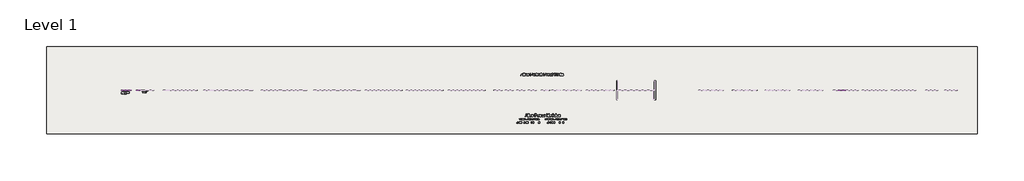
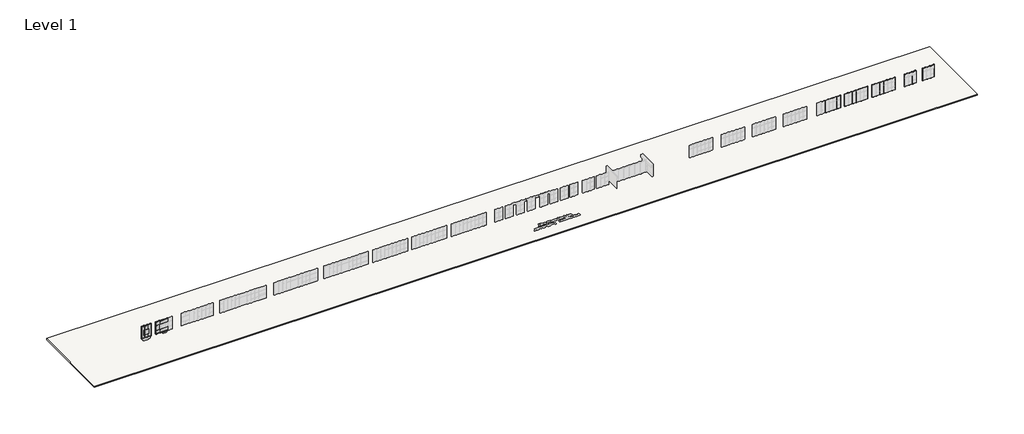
# One storey, part 4 of 22: 72 members, 44 proxies, 1 slab.
"""IFC4 building model written with IfcOpenShell, lengths in millimetres."""

from ifc_helpers import new_model, si_unit, frame, origin, place, context, project, spatial, polyline, outline, extrude, transform, mapped, element, save
from components import specialty_equipment_bbbfd60c, fascia_teknion_ceiling_and_base_fpb1_c4170f9c, fascia_teknion_ceiling_and_base_fpb1_a007a032, fascia_teknion_ceiling_and_base_fpb1_f118ea03, fascia_teknion_ceiling_and_base_fpb1_1e4a17ed, fascia_teknion_ceiling_and_base_fpb1_8c4cbf86, fascia_teknion_ceiling_and_base_fpb1_7b58b744, fascia_teknion_ceiling_and_base_fpb1_db7fbf47, frame_teknion_horizontal_rail_569d168c, frame_teknion_horizontal_rail_d62daecc, frame_teknion_horizontal_rail_0c6c6476, frame_teknion_horizontal_rail_791af6a0, full_eef0ab5c, full_8a41353e, full_3f1e97c4, level_i_259d5150, level_i_3af106d6, level_ii_eb892959, level_ii_fe5f90b5, level_iii_4beb9e8a, level_iii_939e849f, monolithic_level_i_9a1f2e57, monolithic_level_i_efd8ba40, monolithic_level_i_6c7e6ec5, panel_fascia_teknion_level_i_f9dcfb35, panel_fascia_teknion_level_i_738fe521, panel_fascia_teknion_level_iii_769783e0, panel_fascia_teknion_level_iii_81271ac9, rectangular_mullion_7808c36e, rectangular_mullion_a1951c69, rectangular_mullion_54c82f83, rectangular_mullion_553b35be, rectangular_mullion_d5ff06bb, rectangular_mullion_frame_teknion_vertical_post_1d992eec, rectangular_mullion_frame_teknion_vertical_post_bb975e52, rectangular_mullion_frame_teknion_vertical_post_526a61ed, rectangular_mullion_frame_teknion_vertical_post_05f5e206, rectangular_mullion_frame_teknion_vertical_post_5ea4eea9, rectangular_mullion_frame_teknion_vertical_post_1fa3a907

model = new_model("IFC4")

# Units and contexts
model_context = context("Model", 3, world=origin())
ifc_project = project(units=[si_unit("LENGTHUNIT", "METRE", prefix="MILLI")], contexts=[model_context])

# Site, building, storey
site = spatial("IfcSite", under=ifc_project)
building = spatial("IfcBuilding", under=site)
storey = spatial("IfcBuildingStorey", under=building, Name="Level 1", Elevation=0.0)

# Proxies
placement = place(None, origin())
specialty_equipment_shape = specialty_equipment_bbbfd60c(model_context)
element("IfcBuildingElementProxy", 1, Name="Markerboard-Teknion-FCGA-Arch_Complements-Backpainted_Glass-R2021 : Backpainted Glass Markerboard", ObjectType="Markerboard-Teknion-FCGA-Arch_Complements-Backpainted_Glass-R2021 : Backpainted Glass Markerboard", at=placement, inside=storey, context=model_context, shape_type="MappedRepresentation", body=[
    mapped(specialty_equipment_shape, transform((-106824.7695211, 1762.3142105, 750.8875), x_axis=(1.0, 0.0, 0.0), y_axis=(0.0, 1.0, 0.0), z_axis=(0.0, 0.0, 1.0))),
])
fascia_teknion_ceiling_and_base_fpb1_shape = fascia_teknion_ceiling_and_base_fpb1_c4170f9c(model_context)
element("IfcBuildingElementProxy", 2, Name="Fascia-Teknion-Ceiling_and_Base : FPB1", ObjectType="Fascia-Teknion-Ceiling_and_Base : FPB1", at=placement, inside=storey, context=model_context, shape_type="MappedRepresentation", body=[
    mapped(fascia_teknion_ceiling_and_base_fpb1_shape, transform((-103626.4805069, 1843.3402105, 15.875), x_axis=(-1.0, 0.0, 0.0), y_axis=(0.0, -1.0, 0.0), z_axis=(0.0, 0.0, 1.0))),
])
fascia_teknion_ceiling_and_base_fpb1_2_shape = fascia_teknion_ceiling_and_base_fpb1_a007a032(model_context)
element("IfcBuildingElementProxy", 3, Name="Fascia-Teknion-Ceiling_and_Base : FPB1", ObjectType="Fascia-Teknion-Ceiling_and_Base : FPB1", at=placement, inside=storey, context=model_context, shape_type="MappedRepresentation", body=[
    mapped(fascia_teknion_ceiling_and_base_fpb1_2_shape, transform((-103626.4805069, 1781.3642105, 15.875), x_axis=(-1.0, 0.0, 0.0), y_axis=(0.0, -1.0, 0.0), z_axis=(0.0, 0.0, 1.0))),
])
fascia_teknion_ceiling_and_base_fpb1_3_shape = fascia_teknion_ceiling_and_base_fpb1_f118ea03(model_context)
element("IfcBuildingElementProxy", 4, Name="Fascia-Teknion-Ceiling_and_Base : FPB1", ObjectType="Fascia-Teknion-Ceiling_and_Base : FPB1", at=placement, inside=storey, context=model_context, shape_type="MappedRepresentation", body=[
    mapped(fascia_teknion_ceiling_and_base_fpb1_3_shape, transform((-102160.2754287, 1862.357315, 15.875), x_axis=(-1.0, 0.0, 0.0), y_axis=(0.0, -1.0, 0.0), z_axis=(0.0, 0.0, 1.0))),
])
fascia_teknion_ceiling_and_base_fpb1_4_shape = fascia_teknion_ceiling_and_base_fpb1_1e4a17ed(model_context)
element("IfcBuildingElementProxy", 5, Name="Fascia-Teknion-Ceiling_and_Base : FPB1", ObjectType="Fascia-Teknion-Ceiling_and_Base : FPB1", at=placement, inside=storey, context=model_context, shape_type="MappedRepresentation", body=[
    mapped(fascia_teknion_ceiling_and_base_fpb1_4_shape, transform((-102160.2754287, 1762.344815, 15.875), x_axis=(-1.0, 0.0, 0.0), y_axis=(0.0, -1.0, 0.0), z_axis=(0.0, 0.0, 1.0))),
])
fascia_teknion_ceiling_and_base_fpb1_5_shape = fascia_teknion_ceiling_and_base_fpb1_8c4cbf86(model_context)
element("IfcBuildingElementProxy", 6, Name="Fascia-Teknion-Ceiling_and_Base : FPB1", ObjectType="Fascia-Teknion-Ceiling_and_Base : FPB1", at=placement, inside=storey, context=model_context, shape_type="MappedRepresentation", body=[
    mapped(fascia_teknion_ceiling_and_base_fpb1_5_shape, transform((-105568.087543, 1843.3402105, 15.875), x_axis=(1.0, 0.0, 0.0), y_axis=(0.0, 1.0, 0.0), z_axis=(0.0, 0.0, 1.0))),
])
fascia_teknion_ceiling_and_base_fpb1_6_shape = fascia_teknion_ceiling_and_base_fpb1_7b58b744(model_context)
element("IfcBuildingElementProxy", 7, Name="Fascia-Teknion-Ceiling_and_Base : FPB1", ObjectType="Fascia-Teknion-Ceiling_and_Base : FPB1", at=placement, inside=storey, context=model_context, shape_type="MappedRepresentation", body=[
    mapped(fascia_teknion_ceiling_and_base_fpb1_6_shape, transform((-107078.0976993, 1843.3402105, 15.875), x_axis=(1.0, 0.0, 0.0), y_axis=(0.0, 1.0, 0.0), z_axis=(0.0, 0.0, 1.0))),
])
fascia_teknion_ceiling_and_base_fpb1_7_shape = fascia_teknion_ceiling_and_base_fpb1_db7fbf47(model_context)
element("IfcBuildingElementProxy", 8, Name="Fascia-Teknion-Ceiling_and_Base : FPB1", ObjectType="Fascia-Teknion-Ceiling_and_Base : FPB1", at=placement, inside=storey, context=model_context, shape_type="MappedRepresentation", body=[
    mapped(fascia_teknion_ceiling_and_base_fpb1_7_shape, transform((-106323.0926212, 1843.3402105, 15.875), x_axis=(1.0, 0.0, 0.0), y_axis=(0.0, 1.0, 0.0), z_axis=(0.0, 0.0, 1.0))),
])
element("IfcBuildingElementProxy", 9, Name="Fascia-Teknion-Ceiling_and_Base : FPC", ObjectType="Fascia-Teknion-Ceiling_and_Base : FPC", at=placement, inside=storey, context=model_context, shape_type="MappedRepresentation", body=[
    mapped(fascia_teknion_ceiling_and_base_fpb1_shape, transform((-103626.4805069, 1843.3402105, 2900.045), x_axis=(-1.0, 0.0, 0.0), y_axis=(0.0, -1.0, 0.0), z_axis=(0.0, 0.0, 1.0))),
])
element("IfcBuildingElementProxy", 10, Name="Fascia-Teknion-Ceiling_and_Base : FPC", ObjectType="Fascia-Teknion-Ceiling_and_Base : FPC", at=placement, inside=storey, context=model_context, shape_type="MappedRepresentation", body=[
    mapped(fascia_teknion_ceiling_and_base_fpb1_2_shape, transform((-103626.4805069, 1781.3642105, 2950.845), x_axis=(-1.0, 0.0, 0.0), y_axis=(0.0, -1.0, 0.0), z_axis=(0.0, 0.0, 1.0))),
])
element("IfcBuildingElementProxy", 11, Name="Fascia-Teknion-Ceiling_and_Base : FPC", ObjectType="Fascia-Teknion-Ceiling_and_Base : FPC", at=placement, inside=storey, context=model_context, shape_type="MappedRepresentation", body=[
    mapped(fascia_teknion_ceiling_and_base_fpb1_4_shape, transform((-102160.2754287, 1762.344815, 2900.045), x_axis=(-1.0, 0.0, 0.0), y_axis=(0.0, -1.0, 0.0), z_axis=(0.0, 0.0, 1.0))),
])
element("IfcBuildingElementProxy", 12, Name="Fascia-Teknion-Ceiling_and_Base : FPC", ObjectType="Fascia-Teknion-Ceiling_and_Base : FPC", at=placement, inside=storey, context=model_context, shape_type="MappedRepresentation", body=[
    mapped(fascia_teknion_ceiling_and_base_fpb1_5_shape, transform((-105568.087543, 1843.3402105, 2900.045), x_axis=(1.0, 0.0, 0.0), y_axis=(0.0, 1.0, 0.0), z_axis=(0.0, 0.0, 1.0))),
])
element("IfcBuildingElementProxy", 13, Name="Fascia-Teknion-Ceiling_and_Base : FPC", ObjectType="Fascia-Teknion-Ceiling_and_Base : FPC", at=placement, inside=storey, context=model_context, shape_type="MappedRepresentation", body=[
    mapped(fascia_teknion_ceiling_and_base_fpb1_6_shape, transform((-107078.0976993, 1843.3402105, 2900.045), x_axis=(1.0, 0.0, 0.0), y_axis=(0.0, 1.0, 0.0), z_axis=(0.0, 0.0, 1.0))),
])
element("IfcBuildingElementProxy", 14, Name="Fascia-Teknion-Ceiling_and_Base : FPC", ObjectType="Fascia-Teknion-Ceiling_and_Base : FPC", at=placement, inside=storey, context=model_context, shape_type="MappedRepresentation", body=[
    mapped(fascia_teknion_ceiling_and_base_fpb1_7_shape, transform((-106323.0926212, 1843.3402105, 2900.045), x_axis=(1.0, 0.0, 0.0), y_axis=(0.0, 1.0, 0.0), z_axis=(0.0, 0.0, 1.0))),
])
frame_teknion_horizontal_rail_shape = frame_teknion_horizontal_rail_569d168c(model_context)
element("IfcBuildingElementProxy", 15, Name="Frame-Teknion-Horizontal_Rail : FPKK", ObjectType="Frame-Teknion-Horizontal_Rail : FPKK", at=placement, inside=storey, context=model_context, shape_type="MappedRepresentation", body=[
    mapped(frame_teknion_horizontal_rail_shape, transform((-103626.4805069, 1812.3522105, 151.257), x_axis=(-1.0, 0.0, 0.0), y_axis=(0.0, -1.0, 0.0), z_axis=(0.0, 0.0, 1.0))),
])
element("IfcBuildingElementProxy", 16, Name="Frame-Teknion-Horizontal_Rail : FPKK", ObjectType="Frame-Teknion-Horizontal_Rail : FPKK", at=placement, inside=storey, context=model_context, shape_type="MappedRepresentation", body=[
    mapped(frame_teknion_horizontal_rail_shape, transform((-103626.4805069, 1812.3522105, 2898.3305), x_axis=(-1.0, 0.0, 0.0), y_axis=(0.0, -1.0, 0.0), z_axis=(0.0, 0.0, 1.0))),
])
element("IfcBuildingElementProxy", 17, Name="Frame-Teknion-Horizontal_Rail : FPKK", ObjectType="Frame-Teknion-Horizontal_Rail : FPKK", at=placement, inside=storey, context=model_context, shape_type="MappedRepresentation", body=[
    mapped(frame_teknion_horizontal_rail_shape, transform((-103626.4805069, 1812.3522105, 917.575), x_axis=(-1.0, 0.0, 0.0), y_axis=(0.0, -1.0, 0.0), z_axis=(0.0, 0.0, 1.0))),
])
element("IfcBuildingElementProxy", 18, Name="Frame-Teknion-Horizontal_Rail : FPKK", ObjectType="Frame-Teknion-Horizontal_Rail : FPKK", at=placement, inside=storey, context=model_context, shape_type="MappedRepresentation", body=[
    mapped(frame_teknion_horizontal_rail_shape, transform((-103626.4805069, 1812.3522105, 2136.775), x_axis=(-1.0, 0.0, 0.0), y_axis=(0.0, -1.0, 0.0), z_axis=(0.0, 0.0, 1.0))),
])
element("IfcBuildingElementProxy", 19, Name="Frame-Teknion-Horizontal_Rail : FPKK", ObjectType="Frame-Teknion-Horizontal_Rail : FPKK", at=placement, inside=storey, context=model_context, shape_type="MappedRepresentation", body=[
    mapped(frame_teknion_horizontal_rail_shape, transform((-103626.4805069, 1812.3522105, 97.155), x_axis=(-1.0, 0.0, 0.0), y_axis=(0.0, -1.0, 0.0), z_axis=(0.0, 0.0, 1.0))),
])
element("IfcBuildingElementProxy", 20, Name="Frame-Teknion-Horizontal_Rail : FPKK", ObjectType="Frame-Teknion-Horizontal_Rail : FPKK", at=placement, inside=storey, context=model_context, shape_type="MappedRepresentation", body=[
    mapped(frame_teknion_horizontal_rail_shape, transform((-103626.4805069, 1812.3522105, 2949.1305), x_axis=(-1.0, 0.0, 0.0), y_axis=(0.0, -1.0, 0.0), z_axis=(0.0, 0.0, 1.0))),
])
frame_teknion_horizontal_rail_2_shape = frame_teknion_horizontal_rail_d62daecc(model_context)
element("IfcBuildingElementProxy", 21, Name="Frame-Teknion-Horizontal_Rail : FPKK", ObjectType="Frame-Teknion-Horizontal_Rail : FPKK", at=placement, inside=storey, context=model_context, shape_type="MappedRepresentation", body=[
    mapped(frame_teknion_horizontal_rail_2_shape, transform((-102160.2754287, 1812.351065, 917.575), x_axis=(-1.0, 0.0, 0.0), y_axis=(0.0, -1.0, 0.0), z_axis=(0.0, 0.0, 1.0))),
])
element("IfcBuildingElementProxy", 22, Name="Frame-Teknion-Horizontal_Rail : FPKK", ObjectType="Frame-Teknion-Horizontal_Rail : FPKK", at=placement, inside=storey, context=model_context, shape_type="MappedRepresentation", body=[
    mapped(frame_teknion_horizontal_rail_2_shape, transform((-102160.2754287, 1812.351065, 2136.775), x_axis=(-1.0, 0.0, 0.0), y_axis=(0.0, -1.0, 0.0), z_axis=(0.0, 0.0, 1.0))),
])
frame_teknion_horizontal_rail_3_shape = frame_teknion_horizontal_rail_0c6c6476(model_context)
element("IfcBuildingElementProxy", 23, Name="Frame-Teknion-Horizontal_Rail : FPKK", ObjectType="Frame-Teknion-Horizontal_Rail : FPKK", at=placement, inside=storey, context=model_context, shape_type="MappedRepresentation", body=[
    mapped(frame_teknion_horizontal_rail_3_shape, transform((-105568.087543, 1812.3522105, 2898.3305), x_axis=(1.0, 0.0, 0.0), y_axis=(0.0, 1.0, 0.0), z_axis=(0.0, 0.0, 1.0))),
])
element("IfcBuildingElementProxy", 24, Name="Frame-Teknion-Horizontal_Rail : FPKK", ObjectType="Frame-Teknion-Horizontal_Rail : FPKK", at=placement, inside=storey, context=model_context, shape_type="MappedRepresentation", body=[
    mapped(frame_teknion_horizontal_rail_3_shape, transform((-105568.087543, 1812.3522105, 151.257), x_axis=(1.0, 0.0, 0.0), y_axis=(0.0, 1.0, 0.0), z_axis=(0.0, 0.0, 1.0))),
])
element("IfcBuildingElementProxy", 25, Name="Frame-Teknion-Horizontal_Rail : FPKK", ObjectType="Frame-Teknion-Horizontal_Rail : FPKK", at=placement, inside=storey, context=model_context, shape_type="MappedRepresentation", body=[
    mapped(frame_teknion_horizontal_rail_3_shape, transform((-107078.0976993, 1812.3522105, 151.257), x_axis=(1.0, 0.0, 0.0), y_axis=(0.0, 1.0, 0.0), z_axis=(0.0, 0.0, 1.0))),
])
element("IfcBuildingElementProxy", 26, Name="Frame-Teknion-Horizontal_Rail : FPKK", ObjectType="Frame-Teknion-Horizontal_Rail : FPKK", at=placement, inside=storey, context=model_context, shape_type="MappedRepresentation", body=[
    mapped(frame_teknion_horizontal_rail_3_shape, transform((-107078.0976993, 1812.3522105, 2898.3305), x_axis=(1.0, 0.0, 0.0), y_axis=(0.0, 1.0, 0.0), z_axis=(0.0, 0.0, 1.0))),
])
frame_teknion_horizontal_rail_4_shape = frame_teknion_horizontal_rail_791af6a0(model_context)
element("IfcBuildingElementProxy", 27, Name="Frame-Teknion-Horizontal_Rail : FPKK", ObjectType="Frame-Teknion-Horizontal_Rail : FPKK", at=placement, inside=storey, context=model_context, shape_type="MappedRepresentation", body=[
    mapped(frame_teknion_horizontal_rail_4_shape, transform((-106323.0926212, 1812.3522105, 2898.3305), x_axis=(1.0, 0.0, 0.0), y_axis=(0.0, 1.0, 0.0), z_axis=(0.0, 0.0, 1.0))),
])
element("IfcBuildingElementProxy", 28, Name="Frame-Teknion-Horizontal_Rail : FPKK", ObjectType="Frame-Teknion-Horizontal_Rail : FPKK", at=placement, inside=storey, context=model_context, shape_type="MappedRepresentation", body=[
    mapped(frame_teknion_horizontal_rail_4_shape, transform((-106323.0926212, 1812.3522105, 151.257), x_axis=(1.0, 0.0, 0.0), y_axis=(0.0, 1.0, 0.0), z_axis=(0.0, 0.0, 1.0))),
])
full_shape = full_eef0ab5c(model_context)
element("IfcBuildingElementProxy", 29, Name="Panel-Fascia-Teknion-Altos-Standard : Full", ObjectType="Panel-Fascia-Teknion-Altos-Standard : Full", at=placement, inside=storey, context=model_context, shape_type="MappedRepresentation", body=[
    mapped(full_shape, transform((-105568.087543, 1852.8652105, 151.257), x_axis=(1.0, 0.0, 0.0), y_axis=(0.0, 1.0, 0.0), z_axis=(0.0, 0.0, 1.0))),
])
full_2_shape = full_8a41353e(model_context)
element("IfcBuildingElementProxy", 30, Name="Panel-Fascia-Teknion-Altos-Standard : Full", ObjectType="Panel-Fascia-Teknion-Altos-Standard : Full", at=placement, inside=storey, context=model_context, shape_type="MappedRepresentation", body=[
    mapped(full_2_shape, transform((-107078.0976993, 1852.8652105, 151.257), x_axis=(1.0, 0.0, 0.0), y_axis=(0.0, 1.0, 0.0), z_axis=(0.0, 0.0, 1.0))),
])
full_3_shape = full_3f1e97c4(model_context)
element("IfcBuildingElementProxy", 31, Name="Panel-Fascia-Teknion-Altos-Standard : Full", ObjectType="Panel-Fascia-Teknion-Altos-Standard : Full", at=placement, inside=storey, context=model_context, shape_type="MappedRepresentation", body=[
    mapped(full_3_shape, transform((-106323.0926212, 1852.8652105, 151.257), x_axis=(1.0, 0.0, 0.0), y_axis=(0.0, 1.0, 0.0), z_axis=(0.0, 0.0, 1.0))),
])
level_i_shape = level_i_259d5150(model_context)
element("IfcBuildingElementProxy", 32, Name="Panel-Fascia-Teknion-Altos-Standard : Level I", ObjectType="Panel-Fascia-Teknion-Altos-Standard : Level I", at=placement, inside=storey, context=model_context, shape_type="MappedRepresentation", body=[
    mapped(level_i_shape, transform((-103626.4805069, 1852.8652105, 151.257), x_axis=(-1.0, 0.0, 0.0), y_axis=(0.0, -1.0, 0.0), z_axis=(0.0, 0.0, 1.0))),
])
level_i_2_shape = level_i_3af106d6(model_context)
element("IfcBuildingElementProxy", 33, Name="Panel-Fascia-Teknion-Altos-Standard : Level I", ObjectType="Panel-Fascia-Teknion-Altos-Standard : Level I", at=placement, inside=storey, context=model_context, shape_type="MappedRepresentation", body=[
    mapped(level_i_2_shape, transform((-103626.4805069, 1771.8392105, 100.457), x_axis=(-1.0, 0.0, 0.0), y_axis=(0.0, -1.0, 0.0), z_axis=(0.0, 0.0, 1.0))),
])
level_ii_shape = level_ii_eb892959(model_context)
element("IfcBuildingElementProxy", 34, Name="Panel-Fascia-Teknion-Altos-Standard : Level II", ObjectType="Panel-Fascia-Teknion-Altos-Standard : Level II", at=placement, inside=storey, context=model_context, shape_type="MappedRepresentation", body=[
    mapped(level_ii_shape, transform((-103626.4805069, 1852.8652105, 917.575), x_axis=(-1.0, 0.0, 0.0), y_axis=(0.0, -1.0, 0.0), z_axis=(0.0, 0.0, 1.0))),
])
level_ii_2_shape = level_ii_fe5f90b5(model_context)
element("IfcBuildingElementProxy", 35, Name="Panel-Fascia-Teknion-Altos-Standard : Level II", ObjectType="Panel-Fascia-Teknion-Altos-Standard : Level II", at=placement, inside=storey, context=model_context, shape_type="MappedRepresentation", body=[
    mapped(level_ii_2_shape, transform((-103626.4805069, 1771.8392105, 917.575), x_axis=(-1.0, 0.0, 0.0), y_axis=(0.0, -1.0, 0.0), z_axis=(0.0, 0.0, 1.0))),
])
level_iii_shape = level_iii_4beb9e8a(model_context)
element("IfcBuildingElementProxy", 36, Name="Panel-Fascia-Teknion-Altos-Standard : Level III", ObjectType="Panel-Fascia-Teknion-Altos-Standard : Level III", at=placement, inside=storey, context=model_context, shape_type="MappedRepresentation", body=[
    mapped(level_iii_shape, transform((-103626.4805069, 1771.8392105, 2136.775), x_axis=(-1.0, 0.0, 0.0), y_axis=(0.0, -1.0, 0.0), z_axis=(0.0, 0.0, 1.0))),
])
level_iii_2_shape = level_iii_939e849f(model_context)
element("IfcBuildingElementProxy", 37, Name="Panel-Fascia-Teknion-Altos-Standard : Level III", ObjectType="Panel-Fascia-Teknion-Altos-Standard : Level III", at=placement, inside=storey, context=model_context, shape_type="MappedRepresentation", body=[
    mapped(level_iii_2_shape, transform((-103626.4805069, 1852.8652105, 2136.775), x_axis=(-1.0, 0.0, 0.0), y_axis=(0.0, -1.0, 0.0), z_axis=(0.0, 0.0, 1.0))),
])
monolithic_level_i_shape = monolithic_level_i_9a1f2e57(model_context)
element("IfcBuildingElementProxy", 38, Name="Panel-Fascia-Teknion-Altos-Standard : Monolithic Level I", ObjectType="Panel-Fascia-Teknion-Altos-Standard : Monolithic Level I", at=placement, inside=storey, context=model_context, shape_type="MappedRepresentation", body=[
    mapped(monolithic_level_i_shape, transform((-105568.087543, 1771.8392105, 12.7), x_axis=(1.0, 0.0, 0.0), y_axis=(0.0, 1.0, 0.0), z_axis=(0.0, 0.0, 1.0))),
])
monolithic_level_i_2_shape = monolithic_level_i_efd8ba40(model_context)
element("IfcBuildingElementProxy", 39, Name="Panel-Fascia-Teknion-Altos-Standard : Monolithic Level I", ObjectType="Panel-Fascia-Teknion-Altos-Standard : Monolithic Level I", at=placement, inside=storey, context=model_context, shape_type="MappedRepresentation", body=[
    mapped(monolithic_level_i_2_shape, transform((-107078.0976993, 1771.8392105, 12.7), x_axis=(1.0, 0.0, 0.0), y_axis=(0.0, 1.0, 0.0), z_axis=(0.0, 0.0, 1.0))),
])
monolithic_level_i_3_shape = monolithic_level_i_6c7e6ec5(model_context)
element("IfcBuildingElementProxy", 40, Name="Panel-Fascia-Teknion-Altos-Standard : Monolithic Level I", ObjectType="Panel-Fascia-Teknion-Altos-Standard : Monolithic Level I", at=placement, inside=storey, context=model_context, shape_type="MappedRepresentation", body=[
    mapped(monolithic_level_i_3_shape, transform((-106323.0926212, 1771.8392105, 12.7), x_axis=(1.0, 0.0, 0.0), y_axis=(0.0, 1.0, 0.0), z_axis=(0.0, 0.0, 1.0))),
])
panel_fascia_teknion_level_i_shape = panel_fascia_teknion_level_i_f9dcfb35(model_context)
element("IfcBuildingElementProxy", 41, Name="Panel-Fascia-Teknion : Level I", ObjectType="Panel-Fascia-Teknion : Level I", at=placement, inside=storey, context=model_context, shape_type="MappedRepresentation", body=[
    mapped(panel_fascia_teknion_level_i_shape, transform((-102160.2754287, 1852.832315, 151.257), x_axis=(-1.0, 0.0, 0.0), y_axis=(0.0, -1.0, 0.0), z_axis=(0.0, 0.0, 1.0))),
])
panel_fascia_teknion_level_i_2_shape = panel_fascia_teknion_level_i_738fe521(model_context)
element("IfcBuildingElementProxy", 42, Name="Panel-Fascia-Teknion : Level I", ObjectType="Panel-Fascia-Teknion : Level I", at=placement, inside=storey, context=model_context, shape_type="MappedRepresentation", body=[
    mapped(panel_fascia_teknion_level_i_2_shape, transform((-102160.2754287, 1771.869815, 151.257), x_axis=(-1.0, 0.0, 0.0), y_axis=(0.0, -1.0, 0.0), z_axis=(0.0, 0.0, 1.0))),
])
panel_fascia_teknion_level_iii_shape = panel_fascia_teknion_level_iii_769783e0(model_context)
element("IfcBuildingElementProxy", 43, Name="Panel-Fascia-Teknion : Level III", ObjectType="Panel-Fascia-Teknion : Level III", at=placement, inside=storey, context=model_context, shape_type="MappedRepresentation", body=[
    mapped(panel_fascia_teknion_level_iii_shape, transform((-102160.2754287, 1852.832315, 2136.775), x_axis=(-1.0, 0.0, 0.0), y_axis=(0.0, -1.0, 0.0), z_axis=(0.0, 0.0, 1.0))),
])
panel_fascia_teknion_level_iii_2_shape = panel_fascia_teknion_level_iii_81271ac9(model_context)
element("IfcBuildingElementProxy", 44, Name="Panel-Fascia-Teknion : Level III", ObjectType="Panel-Fascia-Teknion : Level III", at=placement, inside=storey, context=model_context, shape_type="MappedRepresentation", body=[
    mapped(panel_fascia_teknion_level_iii_2_shape, transform((-102160.2754287, 1771.869815, 2136.775), x_axis=(-1.0, 0.0, 0.0), y_axis=(0.0, -1.0, 0.0), z_axis=(0.0, 0.0, 1.0))),
])

# Members
rectangular_mullion_shape = rectangular_mullion_7808c36e(model_context)
element("IfcMember", 45, ObjectType="Rectangular Mullion : Frame-Teknion-OptosLP-Ceiling_Top_Spacer", at=placement, inside=storey, context=model_context, shape_type="MappedRepresentation", body=[
    mapped(rectangular_mullion_shape, transform((74753.5073788, 1812.3522105, 3048.0), x_axis=(0.0, 0.0, 1.0), y_axis=(0.0, -1.0, 0.0), z_axis=(1.0, 0.0, 0.0))),
])
element("IfcMember", 46, ObjectType="Rectangular Mullion : Frame-Teknion-OptosLP-Ceiling_Top_Spacer", at=placement, inside=storey, context=model_context, shape_type="MappedRepresentation", body=[
    mapped(rectangular_mullion_shape, transform((76277.5073788, 1812.3522105, 3048.0), x_axis=(0.0, 0.0, 1.0), y_axis=(0.0, 1.0, 0.0), z_axis=(-1.0, 0.0, 0.0))),
])
rectangular_mullion_2_shape = rectangular_mullion_a1951c69(model_context)
element("IfcMember", 47, ObjectType="Rectangular Mullion : Frame-Teknion-Altos-Base_Channel", at=placement, inside=storey, context=model_context, shape_type="MappedRepresentation", body=[
    mapped(rectangular_mullion_2_shape, transform((72010.3073788, 1812.3522105, 0.0), x_axis=(0.0, 0.0, -1.0), y_axis=(0.0, -1.0, 0.0), z_axis=(-1.0, 0.0, 0.0))),
])
element("IfcMember", 48, ObjectType="Rectangular Mullion : Frame-Teknion-Altos-Base_Channel", at=placement, inside=storey, context=model_context, shape_type="MappedRepresentation", body=[
    mapped(rectangular_mullion_2_shape, transform((79020.7073788, 1812.3522105, 0.0), x_axis=(0.0, 0.0, -1.0), y_axis=(0.0, 1.0, 0.0), z_axis=(1.0, 0.0, 0.0))),
])
element("IfcMember", 49, ObjectType="Rectangular Mullion : Frame-Teknion-OptosLP-Ceiling_Top_Spacer", at=placement, inside=storey, context=model_context, shape_type="MappedRepresentation", body=[
    mapped(rectangular_mullion_shape, transform((72924.7073788, 1812.3522105, 3048.0), x_axis=(0.0, 0.0, 1.0), y_axis=(0.0, -1.0, 0.0), z_axis=(1.0, 0.0, 0.0))),
])
element("IfcMember", 50, ObjectType="Rectangular Mullion : Frame-Teknion-OptosLP-Ceiling_Top_Spacer", at=placement, inside=storey, context=model_context, shape_type="MappedRepresentation", body=[
    mapped(rectangular_mullion_shape, transform((78106.3073788, 1812.3522105, 3048.0), x_axis=(0.0, 0.0, 1.0), y_axis=(0.0, 1.0, 0.0), z_axis=(-1.0, 0.0, 0.0))),
])
element("IfcMember", 51, ObjectType="Rectangular Mullion : Frame-Teknion-Altos-Base_Channel", at=placement, inside=storey, context=model_context, shape_type="MappedRepresentation", body=[
    mapped(rectangular_mullion_2_shape, transform((72924.7073788, 1812.3522105, 0.0), x_axis=(0.0, 0.0, -1.0), y_axis=(0.0, -1.0, 0.0), z_axis=(-1.0, 0.0, 0.0))),
])
element("IfcMember", 52, ObjectType="Rectangular Mullion : Frame-Teknion-Altos-Base_Channel", at=placement, inside=storey, context=model_context, shape_type="MappedRepresentation", body=[
    mapped(rectangular_mullion_2_shape, transform((78106.3073788, 1812.3522105, 0.0), x_axis=(0.0, 0.0, -1.0), y_axis=(0.0, 1.0, 0.0), z_axis=(1.0, 0.0, 0.0))),
])
element("IfcMember", 53, ObjectType="Rectangular Mullion : Frame-Teknion-OptosLP-Ceiling_Top_Spacer", at=placement, inside=storey, context=model_context, shape_type="MappedRepresentation", body=[
    mapped(rectangular_mullion_shape, transform((73839.1073788, 1812.3522105, 3048.0), x_axis=(0.0, 0.0, 1.0), y_axis=(0.0, -1.0, 0.0), z_axis=(1.0, 0.0, 0.0))),
])
element("IfcMember", 54, ObjectType="Rectangular Mullion : Frame-Teknion-OptosLP-Ceiling_Top_Spacer", at=placement, inside=storey, context=model_context, shape_type="MappedRepresentation", body=[
    mapped(rectangular_mullion_shape, transform((77191.9073788, 1812.3522105, 3048.0), x_axis=(0.0, 0.0, 1.0), y_axis=(0.0, 1.0, 0.0), z_axis=(-1.0, 0.0, 0.0))),
])
element("IfcMember", 55, ObjectType="Rectangular Mullion : Frame-Teknion-Altos-Base_Channel", at=placement, inside=storey, context=model_context, shape_type="MappedRepresentation", body=[
    mapped(rectangular_mullion_2_shape, transform((73839.1073788, 1812.3522105, 0.0), x_axis=(0.0, 0.0, -1.0), y_axis=(0.0, -1.0, 0.0), z_axis=(-1.0, 0.0, 0.0))),
])
element("IfcMember", 56, ObjectType="Rectangular Mullion : Frame-Teknion-Altos-Base_Channel", at=placement, inside=storey, context=model_context, shape_type="MappedRepresentation", body=[
    mapped(rectangular_mullion_2_shape, transform((77191.9073788, 1812.3522105, 0.0), x_axis=(0.0, 0.0, -1.0), y_axis=(0.0, 1.0, 0.0), z_axis=(1.0, 0.0, 0.0))),
])
rectangular_mullion_3_shape = rectangular_mullion_54c82f83(model_context)
element("IfcMember", 57, ObjectType="Rectangular Mullion : Frame-Teknion-Altos-Ceiling_Channel", at=placement, inside=storey, context=model_context, shape_type="MappedRepresentation", body=[
    mapped(rectangular_mullion_3_shape, transform((56986.2425116, 1812.3522105, 3048.0), x_axis=(0.0, 0.0, 1.0), y_axis=(0.0, -1.0, 0.0), z_axis=(1.0, 0.0, 0.0))),
])
element("IfcMember", 58, ObjectType="Rectangular Mullion : Frame-Teknion-Altos-Ceiling_Channel", at=placement, inside=storey, context=model_context, shape_type="MappedRepresentation", body=[
    mapped(rectangular_mullion_3_shape, transform((69838.0248876, 1812.3522105, 3048.0), x_axis=(0.0, 0.0, 1.0), y_axis=(0.0, -1.0, 0.0), z_axis=(1.0, 0.0, 0.0))),
])
element("IfcMember", 59, ObjectType="Rectangular Mullion : Frame-Teknion-Altos-Ceiling_Channel", at=placement, inside=storey, context=model_context, shape_type="MappedRepresentation", body=[
    mapped(rectangular_mullion_3_shape, transform((65280.0147314, 1812.3522105, 3048.0), x_axis=(0.0, 0.0, 1.0), y_axis=(0.0, -1.0, 0.0), z_axis=(1.0, 0.0, 0.0))),
])
element("IfcMember", 60, ObjectType="Rectangular Mullion : Frame-Teknion-Altos-Ceiling_Channel", at=placement, inside=storey, context=model_context, shape_type="MappedRepresentation", body=[
    mapped(rectangular_mullion_3_shape, transform((63356.2895288, 1812.3522105, 3048.0), x_axis=(0.0, 0.0, 1.0), y_axis=(0.0, -1.0, 0.0), z_axis=(1.0, 0.0, 0.0))),
])
element("IfcMember", 61, ObjectType="Rectangular Mullion : Frame-Teknion-Altos-Ceiling_Channel", at=placement, inside=storey, context=model_context, shape_type="MappedRepresentation", body=[
    mapped(rectangular_mullion_3_shape, transform((58798.2793725, 1812.3522105, 3048.0), x_axis=(0.0, 0.0, 1.0), y_axis=(0.0, -1.0, 0.0), z_axis=(1.0, 0.0, 0.0))),
])
rectangular_mullion_4_shape = rectangular_mullion_553b35be(model_context)
element("IfcMember", 62, ObjectType="Rectangular Mullion : Frame-Teknion-Altos-Base_Channel", at=placement, inside=storey, context=model_context, shape_type="MappedRepresentation", body=[
    mapped(rectangular_mullion_4_shape, transform((56113.8120429, 1812.3522105, 0.0), x_axis=(0.0, 0.0, -1.0), y_axis=(0.0, -1.0, 0.0), z_axis=(-1.0, 0.0, 0.0))),
])
element("IfcMember", 63, ObjectType="Rectangular Mullion : Frame-Teknion-Altos-Base_Channel", at=placement, inside=storey, context=model_context, shape_type="MappedRepresentation", body=[
    mapped(rectangular_mullion_4_shape, transform((64407.5842626, 1812.3522105, 0.0), x_axis=(0.0, 0.0, -1.0), y_axis=(0.0, -1.0, 0.0), z_axis=(-1.0, 0.0, 0.0))),
])
element("IfcMember", 64, ObjectType="Rectangular Mullion : Frame-Teknion-Altos-Base_Channel", at=placement, inside=storey, context=model_context, shape_type="MappedRepresentation", body=[
    mapped(rectangular_mullion_4_shape, transform((68965.5944189, 1812.3522105, 0.0), x_axis=(0.0, 0.0, -1.0), y_axis=(0.0, -1.0, 0.0), z_axis=(-1.0, 0.0, 0.0))),
])
element("IfcMember", 65, ObjectType="Rectangular Mullion : Frame-Teknion-Altos-Base_Channel", at=placement, inside=storey, context=model_context, shape_type="MappedRepresentation", body=[
    mapped(rectangular_mullion_4_shape, transform((57925.8489038, 1812.3522105, 0.0), x_axis=(0.0, 0.0, -1.0), y_axis=(0.0, -1.0, 0.0), z_axis=(-1.0, 0.0, 0.0))),
])
element("IfcMember", 66, ObjectType="Rectangular Mullion : Frame-Teknion-Altos-Base_Channel", at=placement, inside=storey, context=model_context, shape_type="MappedRepresentation", body=[
    mapped(rectangular_mullion_4_shape, transform((62483.85906, 1812.3522105, 0.0), x_axis=(0.0, 0.0, -1.0), y_axis=(0.0, -1.0, 0.0), z_axis=(-1.0, 0.0, 0.0))),
])
rectangular_mullion_5_shape = rectangular_mullion_d5ff06bb(model_context)
element("IfcMember", 67, ObjectType="Rectangular Mullion : Frame-Teknion-Altos-Base_Channel", at=placement, inside=storey, context=model_context, shape_type="MappedRepresentation", body=[
    mapped(rectangular_mullion_5_shape, transform((53370.6120429, 1812.3522105, 0.0), x_axis=(0.0, 0.0, -1.0), y_axis=(0.0, -1.0, 0.0), z_axis=(-1.0, 0.0, 0.0))),
])
element("IfcMember", 68, ObjectType="Rectangular Mullion : Frame-Teknion-Altos-Base_Channel", at=placement, inside=storey, context=model_context, shape_type="MappedRepresentation", body=[
    mapped(rectangular_mullion_5_shape, transform((54285.0120429, 1812.3522105, 0.0), x_axis=(0.0, 0.0, -1.0), y_axis=(0.0, -1.0, 0.0), z_axis=(-1.0, 0.0, 0.0))),
])
element("IfcMember", 69, ObjectType="Rectangular Mullion : Frame-Teknion-Altos-Base_Channel", at=placement, inside=storey, context=model_context, shape_type="MappedRepresentation", body=[
    mapped(rectangular_mullion_5_shape, transform((55199.4120429, 1812.3522105, 0.0), x_axis=(0.0, 0.0, -1.0), y_axis=(0.0, -1.0, 0.0), z_axis=(-1.0, 0.0, 0.0))),
])
element("IfcMember", 70, ObjectType="Rectangular Mullion : Frame-Teknion-Altos-Base_Channel", at=placement, inside=storey, context=model_context, shape_type="MappedRepresentation", body=[
    mapped(rectangular_mullion_5_shape, transform((65307.9944189, 1812.3522105, 0.0), x_axis=(0.0, 0.0, -1.0), y_axis=(0.0, -1.0, 0.0), z_axis=(-1.0, 0.0, 0.0))),
])
element("IfcMember", 71, ObjectType="Rectangular Mullion : Frame-Teknion-Altos-Base_Channel", at=placement, inside=storey, context=model_context, shape_type="MappedRepresentation", body=[
    mapped(rectangular_mullion_5_shape, transform((66222.3944189, 1812.3522105, 0.0), x_axis=(0.0, 0.0, -1.0), y_axis=(0.0, -1.0, 0.0), z_axis=(-1.0, 0.0, 0.0))),
])
element("IfcMember", 72, ObjectType="Rectangular Mullion : Frame-Teknion-Altos-Base_Channel", at=placement, inside=storey, context=model_context, shape_type="MappedRepresentation", body=[
    mapped(rectangular_mullion_5_shape, transform((67136.7944189, 1812.3522105, 0.0), x_axis=(0.0, 0.0, -1.0), y_axis=(0.0, -1.0, 0.0), z_axis=(-1.0, 0.0, 0.0))),
])
element("IfcMember", 73, ObjectType="Rectangular Mullion : Frame-Teknion-Altos-Base_Channel", at=placement, inside=storey, context=model_context, shape_type="MappedRepresentation", body=[
    mapped(rectangular_mullion_5_shape, transform((68051.1944189, 1812.3522105, 0.0), x_axis=(0.0, 0.0, -1.0), y_axis=(0.0, -1.0, 0.0), z_axis=(-1.0, 0.0, 0.0))),
])
element("IfcMember", 74, ObjectType="Rectangular Mullion : Frame-Teknion-Altos-Base_Channel", at=placement, inside=storey, context=model_context, shape_type="MappedRepresentation", body=[
    mapped(rectangular_mullion_5_shape, transform((58826.25906, 1812.3522105, 0.0), x_axis=(0.0, 0.0, -1.0), y_axis=(0.0, -1.0, 0.0), z_axis=(-1.0, 0.0, 0.0))),
])
element("IfcMember", 75, ObjectType="Rectangular Mullion : Frame-Teknion-Altos-Base_Channel", at=placement, inside=storey, context=model_context, shape_type="MappedRepresentation", body=[
    mapped(rectangular_mullion_5_shape, transform((59740.65906, 1812.3522105, 0.0), x_axis=(0.0, 0.0, -1.0), y_axis=(0.0, -1.0, 0.0), z_axis=(-1.0, 0.0, 0.0))),
])
element("IfcMember", 76, ObjectType="Rectangular Mullion : Frame-Teknion-Altos-Base_Channel", at=placement, inside=storey, context=model_context, shape_type="MappedRepresentation", body=[
    mapped(rectangular_mullion_5_shape, transform((60655.05906, 1812.3522105, 0.0), x_axis=(0.0, 0.0, -1.0), y_axis=(0.0, -1.0, 0.0), z_axis=(-1.0, 0.0, 0.0))),
])
element("IfcMember", 77, ObjectType="Rectangular Mullion : Frame-Teknion-Altos-Base_Channel", at=placement, inside=storey, context=model_context, shape_type="MappedRepresentation", body=[
    mapped(rectangular_mullion_5_shape, transform((61569.45906, 1812.3522105, 0.0), x_axis=(0.0, 0.0, -1.0), y_axis=(0.0, -1.0, 0.0), z_axis=(-1.0, 0.0, 0.0))),
])
element("IfcMember", 78, ObjectType="Rectangular Mullion : Frame-Teknion-Altos-Ceiling_Channel", at=placement, inside=storey, context=model_context, shape_type="MappedRepresentation", body=[
    mapped(rectangular_mullion_5_shape, transform((53342.6323554, 1812.3522105, 3048.0), x_axis=(0.0, 0.0, 1.0), y_axis=(0.0, -1.0, 0.0), z_axis=(1.0, 0.0, 0.0))),
])
element("IfcMember", 79, ObjectType="Rectangular Mullion : Frame-Teknion-Altos-Ceiling_Channel", at=placement, inside=storey, context=model_context, shape_type="MappedRepresentation", body=[
    mapped(rectangular_mullion_5_shape, transform((54257.0323554, 1812.3522105, 3048.0), x_axis=(0.0, 0.0, 1.0), y_axis=(0.0, -1.0, 0.0), z_axis=(1.0, 0.0, 0.0))),
])
element("IfcMember", 80, ObjectType="Rectangular Mullion : Frame-Teknion-Altos-Ceiling_Channel", at=placement, inside=storey, context=model_context, shape_type="MappedRepresentation", body=[
    mapped(rectangular_mullion_5_shape, transform((55171.4323554, 1812.3522105, 3048.0), x_axis=(0.0, 0.0, 1.0), y_axis=(0.0, -1.0, 0.0), z_axis=(1.0, 0.0, 0.0))),
])
element("IfcMember", 81, ObjectType="Rectangular Mullion : Frame-Teknion-Altos-Ceiling_Channel", at=placement, inside=storey, context=model_context, shape_type="MappedRepresentation", body=[
    mapped(rectangular_mullion_5_shape, transform((56085.8323554, 1812.3522105, 3048.0), x_axis=(0.0, 0.0, 1.0), y_axis=(0.0, -1.0, 0.0), z_axis=(1.0, 0.0, 0.0))),
])
element("IfcMember", 82, ObjectType="Rectangular Mullion : Frame-Teknion-Altos-Ceiling_Channel", at=placement, inside=storey, context=model_context, shape_type="MappedRepresentation", body=[
    mapped(rectangular_mullion_5_shape, transform((66194.4147314, 1812.3522105, 3048.0), x_axis=(0.0, 0.0, 1.0), y_axis=(0.0, -1.0, 0.0), z_axis=(1.0, 0.0, 0.0))),
])
element("IfcMember", 83, ObjectType="Rectangular Mullion : Frame-Teknion-Altos-Ceiling_Channel", at=placement, inside=storey, context=model_context, shape_type="MappedRepresentation", body=[
    mapped(rectangular_mullion_5_shape, transform((67108.8147314, 1812.3522105, 3048.0), x_axis=(0.0, 0.0, 1.0), y_axis=(0.0, -1.0, 0.0), z_axis=(1.0, 0.0, 0.0))),
])
element("IfcMember", 84, ObjectType="Rectangular Mullion : Frame-Teknion-Altos-Ceiling_Channel", at=placement, inside=storey, context=model_context, shape_type="MappedRepresentation", body=[
    mapped(rectangular_mullion_5_shape, transform((68023.2147314, 1812.3522105, 3048.0), x_axis=(0.0, 0.0, 1.0), y_axis=(0.0, -1.0, 0.0), z_axis=(1.0, 0.0, 0.0))),
])
element("IfcMember", 85, ObjectType="Rectangular Mullion : Frame-Teknion-Altos-Ceiling_Channel", at=placement, inside=storey, context=model_context, shape_type="MappedRepresentation", body=[
    mapped(rectangular_mullion_5_shape, transform((68937.6147314, 1812.3522105, 3048.0), x_axis=(0.0, 0.0, 1.0), y_axis=(0.0, -1.0, 0.0), z_axis=(1.0, 0.0, 0.0))),
])
element("IfcMember", 86, ObjectType="Rectangular Mullion : Frame-Teknion-Altos-Ceiling_Channel", at=placement, inside=storey, context=model_context, shape_type="MappedRepresentation", body=[
    mapped(rectangular_mullion_5_shape, transform((59712.6793725, 1812.3522105, 3048.0), x_axis=(0.0, 0.0, 1.0), y_axis=(0.0, -1.0, 0.0), z_axis=(1.0, 0.0, 0.0))),
])
element("IfcMember", 87, ObjectType="Rectangular Mullion : Frame-Teknion-Altos-Ceiling_Channel", at=placement, inside=storey, context=model_context, shape_type="MappedRepresentation", body=[
    mapped(rectangular_mullion_5_shape, transform((60627.0793725, 1812.3522105, 3048.0), x_axis=(0.0, 0.0, 1.0), y_axis=(0.0, -1.0, 0.0), z_axis=(1.0, 0.0, 0.0))),
])
element("IfcMember", 88, ObjectType="Rectangular Mullion : Frame-Teknion-Altos-Ceiling_Channel", at=placement, inside=storey, context=model_context, shape_type="MappedRepresentation", body=[
    mapped(rectangular_mullion_5_shape, transform((61541.4793725, 1812.3522105, 3048.0), x_axis=(0.0, 0.0, 1.0), y_axis=(0.0, -1.0, 0.0), z_axis=(1.0, 0.0, 0.0))),
])
element("IfcMember", 89, ObjectType="Rectangular Mullion : Frame-Teknion-Altos-Ceiling_Channel", at=placement, inside=storey, context=model_context, shape_type="MappedRepresentation", body=[
    mapped(rectangular_mullion_5_shape, transform((62455.8793725, 1812.3522105, 3048.0), x_axis=(0.0, 0.0, 1.0), y_axis=(0.0, -1.0, 0.0), z_axis=(1.0, 0.0, 0.0))),
])
rectangular_mullion_frame_teknion_vertical_post_shape = rectangular_mullion_frame_teknion_vertical_post_1d992eec(model_context)
element("IfcMember", 90, ObjectType="Rectangular Mullion : Frame-Teknion-Vertical_Post", at=placement, inside=storey, context=model_context, shape_type="MappedRepresentation", body=[
    mapped(rectangular_mullion_frame_teknion_vertical_post_shape, transform((72924.7073788, 1812.3522105, 23.3164063), x_axis=(1.0, 0.0, 0.0), y_axis=(0.0, -1.0, 0.0), z_axis=(0.0, 0.0, -1.0))),
])
element("IfcMember", 91, ObjectType="Rectangular Mullion : Frame-Teknion-Vertical_Post", at=placement, inside=storey, context=model_context, shape_type="MappedRepresentation", body=[
    mapped(rectangular_mullion_frame_teknion_vertical_post_shape, transform((73839.1073788, 1812.3522105, 23.3164063), x_axis=(1.0, 0.0, 0.0), y_axis=(0.0, -1.0, 0.0), z_axis=(0.0, 0.0, -1.0))),
])
rectangular_mullion_frame_teknion_vertical_post_2_shape = rectangular_mullion_frame_teknion_vertical_post_bb975e52(model_context)
element("IfcMember", 92, ObjectType="Rectangular Mullion : Frame-Teknion-Vertical_Post", at=placement, inside=storey, context=model_context, shape_type="MappedRepresentation", body=[
    mapped(rectangular_mullion_frame_teknion_vertical_post_2_shape, transform((74753.5073788, 1812.3522105, 23.3164063), x_axis=(1.0, 0.0, 0.0), y_axis=(0.0, -1.0, 0.0), z_axis=(0.0, 0.0, -1.0))),
])
rectangular_mullion_frame_teknion_vertical_post_3_shape = rectangular_mullion_frame_teknion_vertical_post_526a61ed(model_context)
element("IfcMember", 93, ObjectType="Rectangular Mullion : Frame-Teknion-Vertical_Post", at=placement, inside=storey, context=model_context, shape_type="MappedRepresentation", body=[
    mapped(rectangular_mullion_frame_teknion_vertical_post_3_shape, transform((72010.3073788, 1812.3522105, 2985.391839), x_axis=(-1.0, 0.0, 0.0), y_axis=(0.0, -1.0, 0.0), z_axis=(0.0, 0.0, 1.0))),
])
element("IfcMember", 94, ObjectType="Rectangular Mullion : Frame-Teknion-Vertical_Post", at=placement, inside=storey, context=model_context, shape_type="MappedRepresentation", body=[
    mapped(rectangular_mullion_frame_teknion_vertical_post_shape, transform((77191.9073788, 1812.3522105, 23.3164063), x_axis=(-1.0, 0.0, 0.0), y_axis=(0.0, 1.0, 0.0), z_axis=(0.0, 0.0, -1.0))),
])
element("IfcMember", 95, ObjectType="Rectangular Mullion : Frame-Teknion-Vertical_Post", at=placement, inside=storey, context=model_context, shape_type="MappedRepresentation", body=[
    mapped(rectangular_mullion_frame_teknion_vertical_post_shape, transform((78106.3073788, 1812.3522105, 23.3164063), x_axis=(-1.0, 0.0, 0.0), y_axis=(0.0, 1.0, 0.0), z_axis=(0.0, 0.0, -1.0))),
])
element("IfcMember", 96, ObjectType="Rectangular Mullion : Frame-Teknion-Vertical_Post", at=placement, inside=storey, context=model_context, shape_type="MappedRepresentation", body=[
    mapped(rectangular_mullion_frame_teknion_vertical_post_2_shape, transform((76277.5073788, 1812.3522105, 23.3164063), x_axis=(-1.0, 0.0, 0.0), y_axis=(0.0, 1.0, 0.0), z_axis=(0.0, 0.0, -1.0))),
])
element("IfcMember", 97, ObjectType="Rectangular Mullion : Frame-Teknion-Vertical_Post", at=placement, inside=storey, context=model_context, shape_type="MappedRepresentation", body=[
    mapped(rectangular_mullion_frame_teknion_vertical_post_3_shape, transform((79020.7073788, 1812.3522105, 2985.391839), x_axis=(1.0, 0.0, 0.0), y_axis=(0.0, 1.0, 0.0), z_axis=(0.0, 0.0, 1.0))),
])
rectangular_mullion_frame_teknion_vertical_post_4_shape = rectangular_mullion_frame_teknion_vertical_post_05f5e206(model_context)
element("IfcMember", 98, ObjectType="Rectangular Mullion : Frame-Teknion-Vertical_Post", at=placement, inside=storey, context=model_context, shape_type="MappedRepresentation", body=[
    mapped(rectangular_mullion_frame_teknion_vertical_post_4_shape, transform((53356.6221991, 1812.3522105, 0.0), x_axis=(1.0, 0.0, 0.0), y_axis=(0.0, -1.0, 0.0), z_axis=(0.0, 0.0, -1.0))),
])
element("IfcMember", 99, ObjectType="Rectangular Mullion : Frame-Teknion-Vertical_Post", at=placement, inside=storey, context=model_context, shape_type="MappedRepresentation", body=[
    mapped(rectangular_mullion_frame_teknion_vertical_post_4_shape, transform((54271.0221991, 1812.3522105, 0.0), x_axis=(1.0, 0.0, 0.0), y_axis=(0.0, -1.0, 0.0), z_axis=(0.0, 0.0, -1.0))),
])
element("IfcMember", 100, ObjectType="Rectangular Mullion : Frame-Teknion-Vertical_Post", at=placement, inside=storey, context=model_context, shape_type="MappedRepresentation", body=[
    mapped(rectangular_mullion_frame_teknion_vertical_post_4_shape, transform((55185.4221991, 1812.3522105, 0.0), x_axis=(1.0, 0.0, 0.0), y_axis=(0.0, -1.0, 0.0), z_axis=(0.0, 0.0, -1.0))),
])
element("IfcMember", 101, ObjectType="Rectangular Mullion : Frame-Teknion-Vertical_Post", at=placement, inside=storey, context=model_context, shape_type="MappedRepresentation", body=[
    mapped(rectangular_mullion_frame_teknion_vertical_post_4_shape, transform((56099.8221991, 1812.3522105, 0.0), x_axis=(1.0, 0.0, 0.0), y_axis=(0.0, -1.0, 0.0), z_axis=(0.0, 0.0, -1.0))),
])
element("IfcMember", 102, ObjectType="Rectangular Mullion : Frame-Teknion-Vertical_Post", at=placement, inside=storey, context=model_context, shape_type="MappedRepresentation", body=[
    mapped(rectangular_mullion_frame_teknion_vertical_post_4_shape, transform((65294.0045751, 1812.3522105, 0.0), x_axis=(1.0, 0.0, 0.0), y_axis=(0.0, -1.0, 0.0), z_axis=(0.0, 0.0, -1.0))),
])
element("IfcMember", 103, ObjectType="Rectangular Mullion : Frame-Teknion-Vertical_Post", at=placement, inside=storey, context=model_context, shape_type="MappedRepresentation", body=[
    mapped(rectangular_mullion_frame_teknion_vertical_post_4_shape, transform((66208.4045751, 1812.3522105, 0.0), x_axis=(1.0, 0.0, 0.0), y_axis=(0.0, -1.0, 0.0), z_axis=(0.0, 0.0, -1.0))),
])
element("IfcMember", 104, ObjectType="Rectangular Mullion : Frame-Teknion-Vertical_Post", at=placement, inside=storey, context=model_context, shape_type="MappedRepresentation", body=[
    mapped(rectangular_mullion_frame_teknion_vertical_post_4_shape, transform((67122.8045751, 1812.3522105, 0.0), x_axis=(1.0, 0.0, 0.0), y_axis=(0.0, -1.0, 0.0), z_axis=(0.0, 0.0, -1.0))),
])
element("IfcMember", 105, ObjectType="Rectangular Mullion : Frame-Teknion-Vertical_Post", at=placement, inside=storey, context=model_context, shape_type="MappedRepresentation", body=[
    mapped(rectangular_mullion_frame_teknion_vertical_post_4_shape, transform((68037.2045751, 1812.3522105, 0.0), x_axis=(1.0, 0.0, 0.0), y_axis=(0.0, -1.0, 0.0), z_axis=(0.0, 0.0, -1.0))),
])
element("IfcMember", 106, ObjectType="Rectangular Mullion : Frame-Teknion-Vertical_Post", at=placement, inside=storey, context=model_context, shape_type="MappedRepresentation", body=[
    mapped(rectangular_mullion_frame_teknion_vertical_post_4_shape, transform((68951.6045751, 1812.3522105, 0.0), x_axis=(1.0, 0.0, 0.0), y_axis=(0.0, -1.0, 0.0), z_axis=(0.0, 0.0, -1.0))),
])
element("IfcMember", 107, ObjectType="Rectangular Mullion : Frame-Teknion-Vertical_Post", at=placement, inside=storey, context=model_context, shape_type="MappedRepresentation", body=[
    mapped(rectangular_mullion_frame_teknion_vertical_post_4_shape, transform((58812.2692163, 1812.3522105, 0.0), x_axis=(1.0, 0.0, 0.0), y_axis=(0.0, -1.0, 0.0), z_axis=(0.0, 0.0, -1.0))),
])
element("IfcMember", 108, ObjectType="Rectangular Mullion : Frame-Teknion-Vertical_Post", at=placement, inside=storey, context=model_context, shape_type="MappedRepresentation", body=[
    mapped(rectangular_mullion_frame_teknion_vertical_post_4_shape, transform((59726.6692163, 1812.3522105, 0.0), x_axis=(1.0, 0.0, 0.0), y_axis=(0.0, -1.0, 0.0), z_axis=(0.0, 0.0, -1.0))),
])
element("IfcMember", 109, ObjectType="Rectangular Mullion : Frame-Teknion-Vertical_Post", at=placement, inside=storey, context=model_context, shape_type="MappedRepresentation", body=[
    mapped(rectangular_mullion_frame_teknion_vertical_post_4_shape, transform((60641.0692163, 1812.3522105, 0.0), x_axis=(1.0, 0.0, 0.0), y_axis=(0.0, -1.0, 0.0), z_axis=(0.0, 0.0, -1.0))),
])
element("IfcMember", 110, ObjectType="Rectangular Mullion : Frame-Teknion-Vertical_Post", at=placement, inside=storey, context=model_context, shape_type="MappedRepresentation", body=[
    mapped(rectangular_mullion_frame_teknion_vertical_post_4_shape, transform((61555.4692163, 1812.3522105, 0.0), x_axis=(1.0, 0.0, 0.0), y_axis=(0.0, -1.0, 0.0), z_axis=(0.0, 0.0, -1.0))),
])
element("IfcMember", 111, ObjectType="Rectangular Mullion : Frame-Teknion-Vertical_Post", at=placement, inside=storey, context=model_context, shape_type="MappedRepresentation", body=[
    mapped(rectangular_mullion_frame_teknion_vertical_post_4_shape, transform((62469.8692163, 1812.3522105, 0.0), x_axis=(1.0, 0.0, 0.0), y_axis=(0.0, -1.0, 0.0), z_axis=(0.0, 0.0, -1.0))),
])
rectangular_mullion_frame_teknion_vertical_post_5_shape = rectangular_mullion_frame_teknion_vertical_post_5ea4eea9(model_context)
element("IfcMember", 112, ObjectType="Rectangular Mullion : Frame-Teknion-Vertical_Post", at=placement, inside=storey, context=model_context, shape_type="MappedRepresentation", body=[
    mapped(rectangular_mullion_frame_teknion_vertical_post_5_shape, transform((57014.2221991, 1812.3522105, 0.0), x_axis=(1.0, 0.0, 0.0), y_axis=(0.0, -1.0, 0.0), z_axis=(0.0, 0.0, -1.0))),
])
element("IfcMember", 113, ObjectType="Rectangular Mullion : Frame-Teknion-Vertical_Post", at=placement, inside=storey, context=model_context, shape_type="MappedRepresentation", body=[
    mapped(rectangular_mullion_frame_teknion_vertical_post_5_shape, transform((69866.0045751, 1812.3522105, 0.0), x_axis=(1.0, 0.0, 0.0), y_axis=(0.0, -1.0, 0.0), z_axis=(0.0, 0.0, -1.0))),
])
element("IfcMember", 114, ObjectType="Rectangular Mullion : Frame-Teknion-Vertical_Post", at=placement, inside=storey, context=model_context, shape_type="MappedRepresentation", body=[
    mapped(rectangular_mullion_frame_teknion_vertical_post_5_shape, transform((63384.2692163, 1812.3522105, 0.0), x_axis=(1.0, 0.0, 0.0), y_axis=(0.0, -1.0, 0.0), z_axis=(0.0, 0.0, -1.0))),
])
rectangular_mullion_frame_teknion_vertical_post_6_shape = rectangular_mullion_frame_teknion_vertical_post_1fa3a907(model_context)
element("IfcMember", 115, ObjectType="Rectangular Mullion : Frame-Teknion-Vertical_Post", at=placement, inside=storey, context=model_context, shape_type="MappedRepresentation", body=[
    mapped(rectangular_mullion_frame_teknion_vertical_post_6_shape, transform((64379.6045751, 1812.3522105, 3048.0), x_axis=(-1.0, 0.0, 0.0), y_axis=(0.0, -1.0, 0.0), z_axis=(0.0, 0.0, 1.0))),
])
element("IfcMember", 116, ObjectType="Rectangular Mullion : Frame-Teknion-Vertical_Post", at=placement, inside=storey, context=model_context, shape_type="MappedRepresentation", body=[
    mapped(rectangular_mullion_frame_teknion_vertical_post_6_shape, transform((57897.8692163, 1812.3522105, 3048.0), x_axis=(-1.0, 0.0, 0.0), y_axis=(0.0, -1.0, 0.0), z_axis=(0.0, 0.0, 1.0))),
])

# Slab
element("IfcSlab", 117, ObjectType="Generic - 12\"", at=placement, inside=storey, context=model_context, shape_type="SweptSolid", body=[
    extrude(outline(polyline([(83580.9865879, 11565.9522105), (83580.9865879, -7941.2477895), (-124132.1687444, -7941.2477895), (-124132.1687444, 11565.9522105), (83580.9865879, 11565.9522105)])), frame((0.0, 0.0, -304.8), z_axis=(0.0, 0.0, 1.0), x_axis=(1.0, 0.0, 0.0)), (0.0, 0.0, 1.0), 304.8),
])

save(model, "model.ifc")
